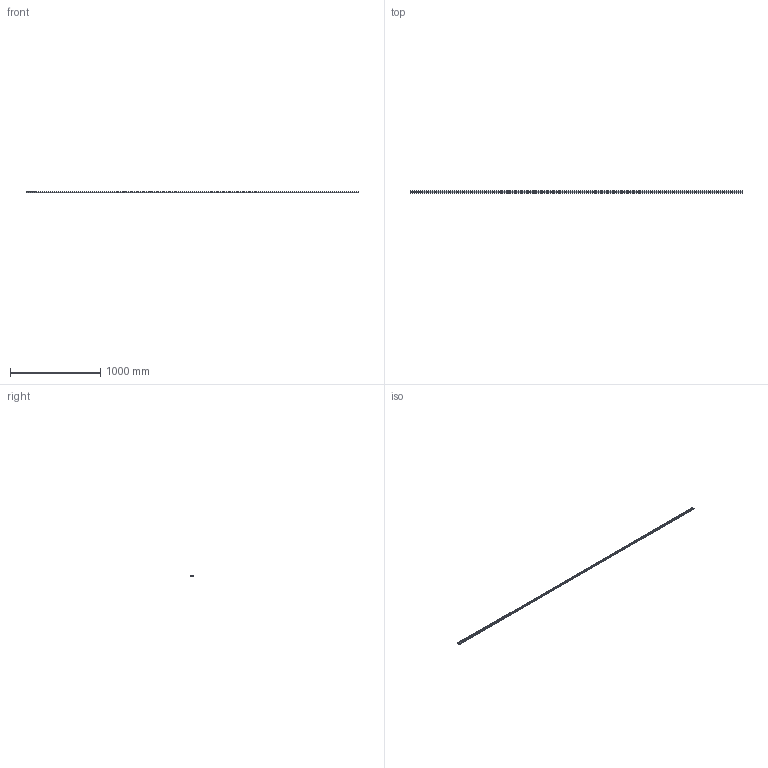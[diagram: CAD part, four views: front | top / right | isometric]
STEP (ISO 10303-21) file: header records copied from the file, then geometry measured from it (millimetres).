
FILE_DESCRIPTION( ( 'STEP AP214' ), '1' );
FILE_NAME( 'p:/temp/worker_22/temp/exporttempdir_996_172_aCrqb/format_0/TEN26-3680-CEN26-92.stp', '2020-05-08T18:55:46', ( 'License CC BY-ND 4.0' ), ( 'CADENAS' ), ' ', 'PARTsolutions', ' ' );
FILE_SCHEMA( ( 'AUTOMOTIVE_DESIGN { 1 0 10303 214 1 1 1 1 }' ) );
Length unit declared in the file: millimetre
Products named in the file (6): TEN26-3680-CEN26-92; _TEN 26-3680; _CEN26-92_1; _RLN26(11.2_M5); _RLA26(11.2_M5); _LAN-26
Assembly tree (8 placements, depth 2):
  TEN26-3680-CEN26-92
    _TEN 26-3680
    _CEN26-92_1
    _RLN26(11.2_M5)  x2
    _RLA26(11.2_M5)
    _LAN-26  x3
Bounding box: 3680 x 25.88 x 22 mm (x, y, z)
Volume: 393090.3 mm3; surface area: 333877.4 mm2
Topology: 8 solids, 8 shells, 279 faces, 639 edges, 403 vertices
Faces by surface type: plane 131, cylinder 115, cone 24, bspline 9
Full cylindrical faces by diameter (mm): 2.5 x2, 4.134 x5, 4.5 x3, 5 x6, 6.5 x46, 9.3 x3, 11.2 x6, 11.6 x6, 15.7 x6, 16.7 x6
Entity records: 7190 total; most frequent: CARTESIAN_POINT 1015, DIRECTION 988, ORIENTED_EDGE 718, AXIS2_PLACEMENT_3D 430, EDGE_LOOP 416, EDGE_CURVE 359, VERTEX_POINT 289, FACE_OUTER_BOUND 276
